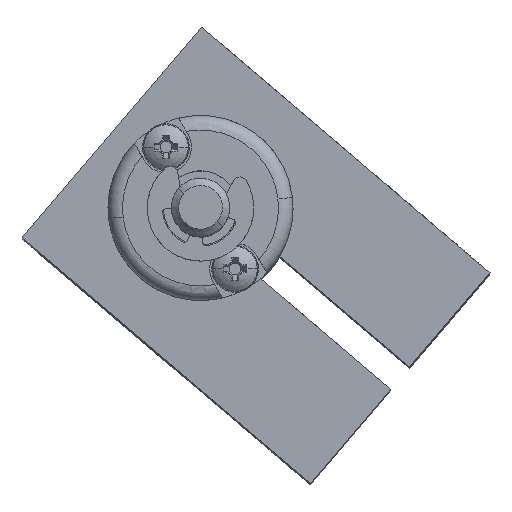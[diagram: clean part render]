
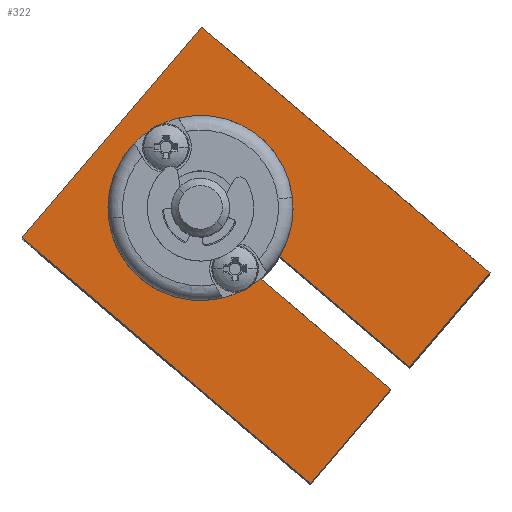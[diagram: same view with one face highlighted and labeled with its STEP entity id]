
A CAD part, top view. The second image highlights one B-rep face of the part: STEP entity #322.
In plain terms, the highlighted planar face has unit normal (0, 0, 1).
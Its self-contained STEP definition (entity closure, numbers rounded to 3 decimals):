
#322=ADVANCED_FACE('',(#959),#960,.F.);
#959=FACE_OUTER_BOUND('',#1787,.T.);
#960=PLANE('',#1788);
#1787=EDGE_LOOP('',(#5065,#5066,#5067,#5068,#5069,#5070,#5071,#5072,#5073,#5074));
#1788=AXIS2_PLACEMENT_3D('',#5075,#5076,#5077);
#5065=ORIENTED_EDGE('',*,*,#7028,.F.);
#5066=ORIENTED_EDGE('',*,*,#7024,.F.);
#5067=ORIENTED_EDGE('',*,*,#7047,.F.);
#5068=ORIENTED_EDGE('',*,*,#7044,.F.);
#5069=ORIENTED_EDGE('',*,*,#7040,.F.);
#5070=ORIENTED_EDGE('',*,*,#7060,.F.);
#5071=ORIENTED_EDGE('',*,*,#6329,.F.);
#5072=ORIENTED_EDGE('',*,*,#7061,.F.);
#5073=ORIENTED_EDGE('',*,*,#7037,.F.);
#5074=ORIENTED_EDGE('',*,*,#7034,.F.);
#5075=CARTESIAN_POINT('',(6.974,-2.81,-53.5));
#5076=DIRECTION('',(0.0,0.0,-1.0));
#5077=DIRECTION('',(0.0,-1.0,0.0));
#6329=EDGE_CURVE('',#7705,#7708,#7709,.T.);
#7024=EDGE_CURVE('',#8905,#8906,#8907,.T.);
#7028=EDGE_CURVE('',#8906,#8913,#8914,.T.);
#7034=EDGE_CURVE('',#8913,#8921,#8922,.T.);
#7037=EDGE_CURVE('',#8921,#8926,#8927,.T.);
#7040=EDGE_CURVE('',#8931,#8932,#8933,.T.);
#7044=EDGE_CURVE('',#8932,#8939,#8940,.T.);
#7047=EDGE_CURVE('',#8939,#8905,#8944,.T.);
#7060=EDGE_CURVE('',#7708,#8931,#8959,.T.);
#7061=EDGE_CURVE('',#8926,#7705,#8960,.T.);
#7705=VERTEX_POINT('',#9521);
#7708=VERTEX_POINT('',#9525);
#7709=CIRCLE('',#9526,6.35);
#8905=VERTEX_POINT('',#11574);
#8906=VERTEX_POINT('',#11575);
#8907=LINE('',#11576,#11577);
#8913=VERTEX_POINT('',#11586);
#8914=LINE('',#11587,#11588);
#8921=VERTEX_POINT('',#11599);
#8922=LINE('',#11600,#11601);
#8926=VERTEX_POINT('',#11607);
#8927=LINE('',#11608,#11609);
#8931=VERTEX_POINT('',#11615);
#8932=VERTEX_POINT('',#11616);
#8933=LINE('',#11617,#11618);
#8939=VERTEX_POINT('',#11627);
#8940=LINE('',#11628,#11629);
#8944=LINE('',#11635,#11636);
#8959=CIRCLE('',#11661,6.35);
#8960=CIRCLE('',#11662,6.35);
#9521=CARTESIAN_POINT('',(13.151,-4.283,-53.5));
#9525=CARTESIAN_POINT('',(0.797,-1.336,-53.5));
#9526=AXIS2_PLACEMENT_3D('',#12558,#12559,#12560);
#11574=CARTESIAN_POINT('',(-5.275,-4.86,-53.5));
#11575=CARTESIAN_POINT('',(7.039,9.61,-53.5));
#11576=CARTESIAN_POINT('',(-5.275,-4.86,-53.5));
#11577=VECTOR('',#13846,19.0);
#11586=CARTESIAN_POINT('',(26.839,-7.241,-53.5));
#11587=CARTESIAN_POINT('',(7.039,9.61,-53.5));
#11588=VECTOR('',#13850,26.0);
#11599=CARTESIAN_POINT('',(21.33,-13.714,-53.5));
#11600=CARTESIAN_POINT('',(26.839,-7.241,-53.5));
#11601=VECTOR('',#13858,8.5);
#11607=CARTESIAN_POINT('',(12.398,-6.112,-53.5));
#11608=CARTESIAN_POINT('',(21.33,-13.714,-53.5));
#11609=VECTOR('',#13861,11.729);
#11615=CARTESIAN_POINT('',(11.102,-7.635,-53.5));
#11616=CARTESIAN_POINT('',(20.034,-15.237,-53.5));
#11617=CARTESIAN_POINT('',(11.102,-7.635,-53.5));
#11618=VECTOR('',#13864,11.729);
#11627=CARTESIAN_POINT('',(14.525,-21.71,-53.5));
#11628=CARTESIAN_POINT('',(20.034,-15.237,-53.5));
#11629=VECTOR('',#13868,8.5);
#11635=CARTESIAN_POINT('',(14.525,-21.71,-53.5));
#11636=VECTOR('',#13871,26.0);
#11661=AXIS2_PLACEMENT_3D('',#13888,#13889,#13890);
#11662=AXIS2_PLACEMENT_3D('',#13891,#13892,#13893);
#12558=CARTESIAN_POINT('',(6.974,-2.81,-53.5));
#12559=DIRECTION('',(0.,0.,1.0));
#12560=DIRECTION('',(0.973,-0.232,0.));
#13846=DIRECTION('',(0.648,0.762,0.));
#13850=DIRECTION('',(0.762,-0.648,0.));
#13858=DIRECTION('',(-0.648,-0.762,0.0));
#13861=DIRECTION('',(-0.762,0.648,0.0));
#13864=DIRECTION('',(0.762,-0.648,0.0));
#13868=DIRECTION('',(-0.648,-0.762,0.0));
#13871=DIRECTION('',(-0.762,0.648,0.));
#13888=CARTESIAN_POINT('',(6.974,-2.81,-53.5));
#13889=DIRECTION('',(0.,0.,1.0));
#13890=DIRECTION('',(0.973,-0.232,0.));
#13891=CARTESIAN_POINT('',(6.974,-2.81,-53.5));
#13892=DIRECTION('',(0.,0.,1.0));
#13893=DIRECTION('',(0.973,-0.232,0.));
